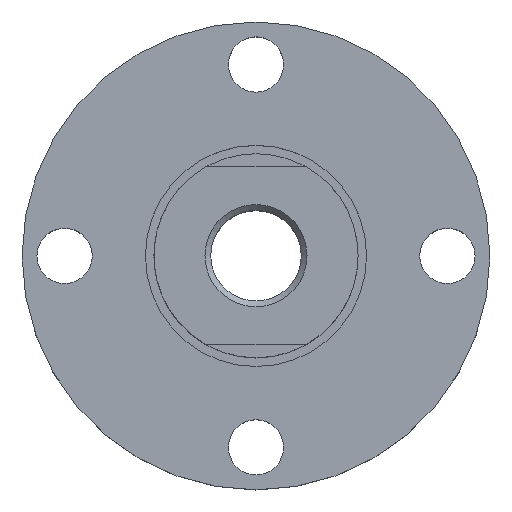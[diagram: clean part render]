
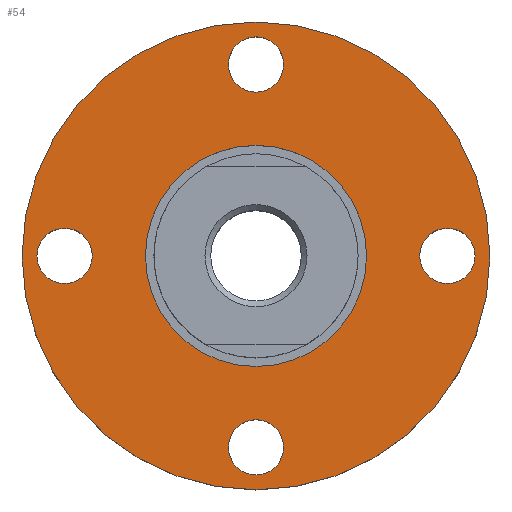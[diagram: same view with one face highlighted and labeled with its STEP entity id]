
A CAD part, top view. The second image highlights one B-rep face of the part: STEP entity #54.
In plain terms, the highlighted planar face has unit normal (0, 0, 1).
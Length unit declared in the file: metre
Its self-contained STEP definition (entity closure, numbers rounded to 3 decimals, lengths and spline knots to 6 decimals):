
#54 = ADVANCED_FACE( '', ( #117, #118, #119, #120, #121, #122 ), #123, .F. );
#117 = FACE_BOUND( '', #200, .T. );
#118 = FACE_BOUND( '', #201, .T. );
#119 = FACE_BOUND( '', #202, .T. );
#120 = FACE_BOUND( '', #203, .T. );
#121 = FACE_OUTER_BOUND( '', #204, .T. );
#122 = FACE_BOUND( '', #205, .T. );
#123 = PLANE( '', #206 );
#200 = EDGE_LOOP( '', ( #293 ) );
#201 = EDGE_LOOP( '', ( #294 ) );
#202 = EDGE_LOOP( '', ( #295 ) );
#203 = EDGE_LOOP( '', ( #296 ) );
#204 = EDGE_LOOP( '', ( #297 ) );
#205 = EDGE_LOOP( '', ( #298 ) );
#206 = AXIS2_PLACEMENT_3D( '', #299, #300, #301 );
#293 = ORIENTED_EDGE( '', *, *, #386, .F. );
#294 = ORIENTED_EDGE( '', *, *, #397, .F. );
#295 = ORIENTED_EDGE( '', *, *, #404, .F. );
#296 = ORIENTED_EDGE( '', *, *, #405, .F. );
#297 = ORIENTED_EDGE( '', *, *, #388, .T. );
#298 = ORIENTED_EDGE( '', *, *, #406, .T. );
#299 = CARTESIAN_POINT( '', ( 0., 0., 0.009 ) );
#300 = DIRECTION( '', ( 0., 0., -1. ) );
#301 = DIRECTION( '', ( 1., 0., 0. ) );
#386 = EDGE_CURVE( '', #434, #434, #435, .T. );
#388 = EDGE_CURVE( '', #437, #437, #438, .T. );
#397 = EDGE_CURVE( '', #453, #453, #454, .T. );
#404 = EDGE_CURVE( '', #463, #463, #464, .T. );
#405 = EDGE_CURVE( '', #465, #465, #466, .T. );
#406 = EDGE_CURVE( '', #467, #467, #468, .F. );
#434 = VERTEX_POINT( '', #506 );
#435 = CIRCLE( '', #507, 0.00325 );
#437 = VERTEX_POINT( '', #509 );
#438 = CIRCLE( '', #510, 0.0275 );
#453 = VERTEX_POINT( '', #529 );
#454 = CIRCLE( '', #530, 0.00325 );
#463 = VERTEX_POINT( '', #539 );
#464 = CIRCLE( '', #540, 0.00325 );
#465 = VERTEX_POINT( '', #541 );
#466 = CIRCLE( '', #542, 0.00325 );
#467 = VERTEX_POINT( '', #543 );
#468 = CIRCLE( '', #544, 0.013 );
#506 = CARTESIAN_POINT( '', ( 0., -0.02575, 0.009 ) );
#507 = AXIS2_PLACEMENT_3D( '', #586, #587, #588 );
#509 = CARTESIAN_POINT( '', ( 0.0275, 0., 0.009 ) );
#510 = AXIS2_PLACEMENT_3D( '', #589, #590, #591 );
#529 = CARTESIAN_POINT( '', ( -0.02575, 0., 0.009 ) );
#530 = AXIS2_PLACEMENT_3D( '', #602, #603, #604 );
#539 = CARTESIAN_POINT( '', ( 0., 0.02575, 0.009 ) );
#540 = AXIS2_PLACEMENT_3D( '', #614, #615, #616 );
#541 = CARTESIAN_POINT( '', ( 0.02575, 0., 0.009 ) );
#542 = AXIS2_PLACEMENT_3D( '', #617, #618, #619 );
#543 = CARTESIAN_POINT( '', ( 0.013, 0., 0.009 ) );
#544 = AXIS2_PLACEMENT_3D( '', #620, #621, #622 );
#586 = CARTESIAN_POINT( '', ( 0., -0.0225, 0.009 ) );
#587 = DIRECTION( '', ( 0., 0., 1. ) );
#588 = DIRECTION( '', ( 0., -1., 0. ) );
#589 = CARTESIAN_POINT( '', ( 0., 0., 0.009 ) );
#590 = DIRECTION( '', ( 0., 0., 1. ) );
#591 = DIRECTION( '', ( 1., 0., 0. ) );
#602 = CARTESIAN_POINT( '', ( -0.0225, 0., 0.009 ) );
#603 = DIRECTION( '', ( 0., 0., 1. ) );
#604 = DIRECTION( '', ( -1., 0., 0. ) );
#614 = CARTESIAN_POINT( '', ( 0., 0.0225, 0.009 ) );
#615 = DIRECTION( '', ( 0., 0., 1. ) );
#616 = DIRECTION( '', ( 0., 1., 0. ) );
#617 = CARTESIAN_POINT( '', ( 0.0225, 0., 0.009 ) );
#618 = DIRECTION( '', ( 0., 0., 1. ) );
#619 = DIRECTION( '', ( 1., 0., 0. ) );
#620 = CARTESIAN_POINT( '', ( 0., 0., 0.009 ) );
#621 = DIRECTION( '', ( 0., 0., 1. ) );
#622 = DIRECTION( '', ( 1., 0., 0. ) );
